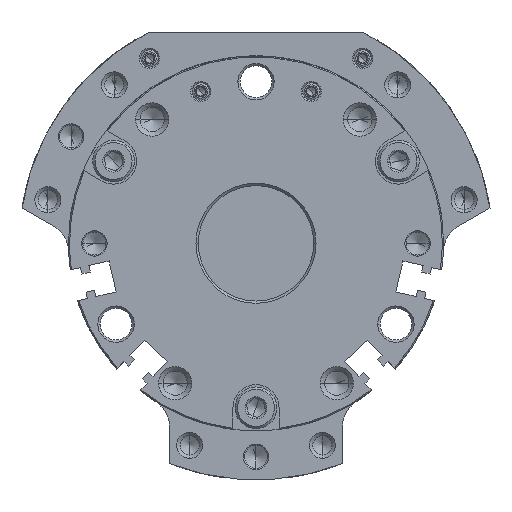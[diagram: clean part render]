
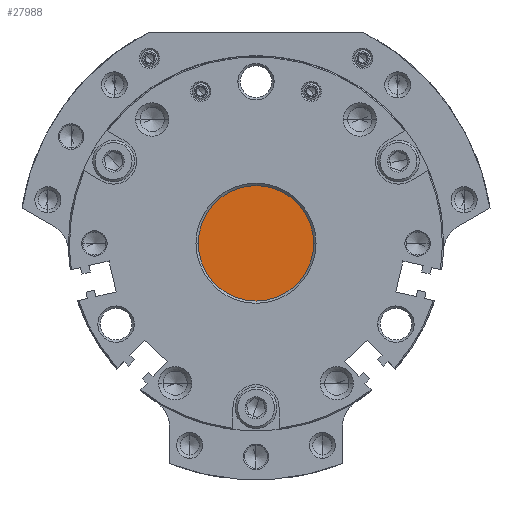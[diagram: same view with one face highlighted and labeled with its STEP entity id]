
A CAD part, front view. The second image highlights one B-rep face of the part: STEP entity #27988.
In plain terms, the highlighted planar face has unit normal (0, -1, 0).
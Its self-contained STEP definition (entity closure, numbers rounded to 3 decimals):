
#2086 = ORIENTED_EDGE ( 'NONE', *, *, #28713, .F. ) ;
#4746 = AXIS2_PLACEMENT_3D ( 'NONE', #45768, #26534, #31290 ) ;
#5944 = DIRECTION ( 'NONE',  ( 0., 1., 0. ) ) ;
#7238 = AXIS2_PLACEMENT_3D ( 'NONE', #37606, #5944, #37311 ) ;
#14051 = ORIENTED_EDGE ( 'NONE', *, *, #45284, .F. ) ;
#18659 = VERTEX_POINT ( 'NONE', #58149 ) ;
#25492 = CIRCLE ( 'NONE', #4746, 10. ) ;
#26534 = DIRECTION ( 'NONE',  ( 0., 1., 0. ) ) ;
#27436 = EDGE_LOOP ( 'NONE', ( #2086, #14051 ) ) ;
#27988 = ADVANCED_FACE ( 'NONE', ( #37818 ), #37230, .F. ) ;
#28713 = EDGE_CURVE ( 'NONE', #18659, #28808, #30842, .T. ) ;
#28808 = VERTEX_POINT ( 'NONE', #34347 ) ;
#28910 = DIRECTION ( 'NONE',  ( 0., 1., 0. ) ) ;
#30842 = CIRCLE ( 'NONE', #7238, 10. ) ;
#31290 = DIRECTION ( 'NONE',  ( 0., 0., 1. ) ) ;
#34347 = CARTESIAN_POINT ( 'NONE',  ( 0., 3.5, -10. ) ) ;
#37230 = PLANE ( 'NONE',  #47793 ) ;
#37311 = DIRECTION ( 'NONE',  ( 0., 0., 1. ) ) ;
#37523 = CARTESIAN_POINT ( 'NONE',  ( 0., 3.5, 0. ) ) ;
#37606 = CARTESIAN_POINT ( 'NONE',  ( 0., 3.5, 0. ) ) ;
#37818 = FACE_OUTER_BOUND ( 'NONE', #27436, .T. ) ;
#45284 = EDGE_CURVE ( 'NONE', #28808, #18659, #25492, .T. ) ;
#45768 = CARTESIAN_POINT ( 'NONE',  ( 0., 3.5, 0. ) ) ;
#46692 = DIRECTION ( 'NONE',  ( 0., 0., 1. ) ) ;
#47793 = AXIS2_PLACEMENT_3D ( 'NONE', #37523, #28910, #46692 ) ;
#58149 = CARTESIAN_POINT ( 'NONE',  ( 0., 3.5, 10. ) ) ;
